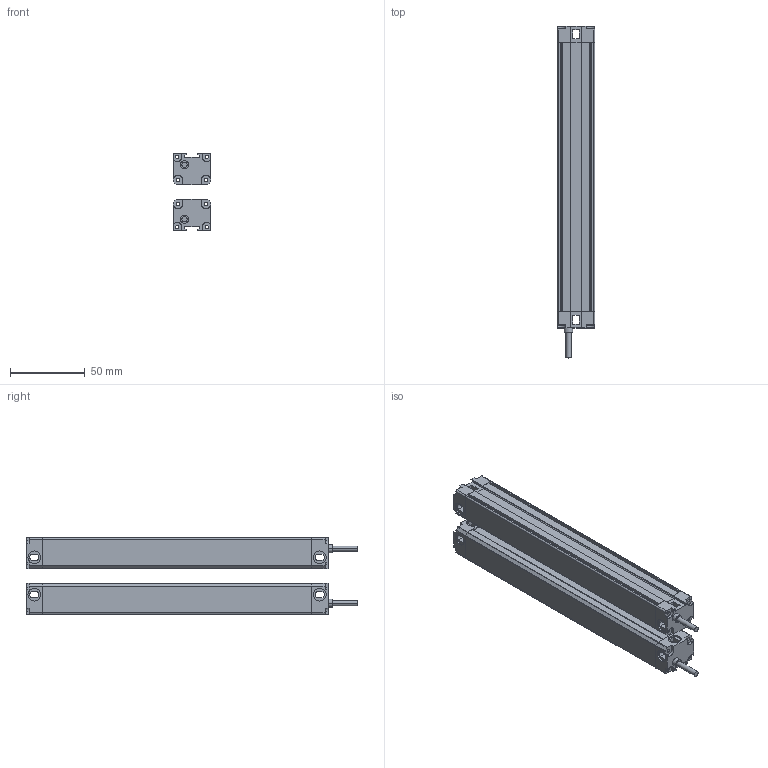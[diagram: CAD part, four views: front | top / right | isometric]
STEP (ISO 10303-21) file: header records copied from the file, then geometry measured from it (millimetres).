
FILE_DESCRIPTION (( 'STEP AP214' ), '1' );
FILE_NAME ('MTC1810.STEP', '2022-12-02T08:06:38', ( '' ), ( '' ), 'SwSTEP 2.0', 'SolidWorks 2018', '' );
FILE_SCHEMA (( 'AUTOMOTIVE_DESIGN' ));
Length unit declared in the file: millimetre
Products named in the file (5): 噩砃P02^MTC; P02^MTC; MTC1810; MTC waike^MTC; P01^MTC
Assembly tree (6 placements, depth 2):
  MTC1810
    MTC waike^MTC  x2
    P01^MTC  x2
    P02^MTC
    噩砃P02^MTC
Bounding box: 25 x 222 x 51.4 mm (x, y, z)
Volume: 73915 mm3; surface area: 94306.9 mm2
Topology: 8 solids, 8 shells, 480 faces, 1396 edges, 924 vertices
Faces by surface type: plane 272, cylinder 208
Entity records: 10886 total; most frequent: DIRECTION 1881, CARTESIAN_POINT 1878, ORIENTED_EDGE 1846, EDGE_CURVE 923, AXIS2_PLACEMENT_3D 637, VERTEX_POINT 610, VECTOR 607, LINE 607
